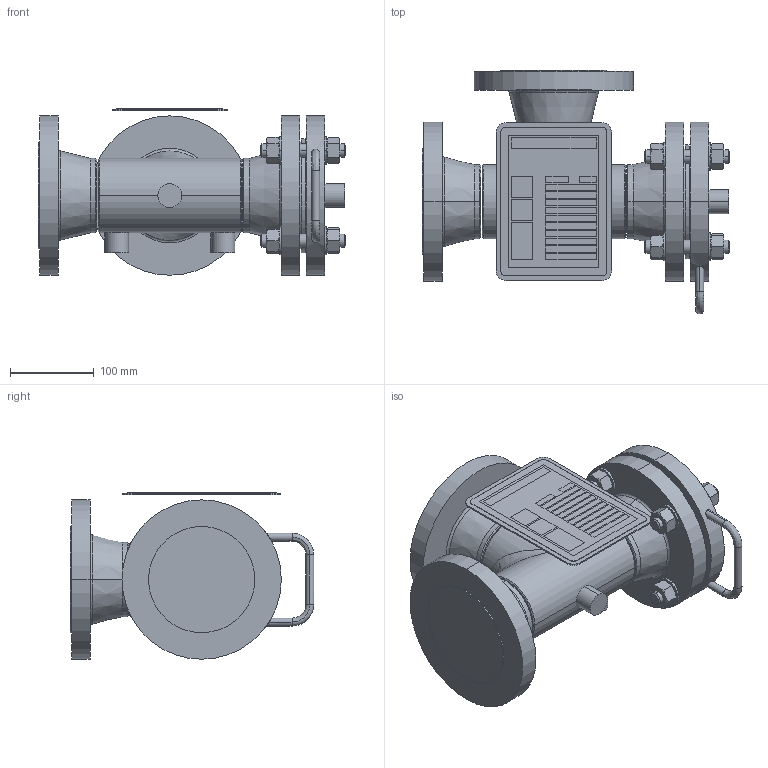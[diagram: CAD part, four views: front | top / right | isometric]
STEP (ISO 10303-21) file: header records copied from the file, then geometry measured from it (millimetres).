
FILE_DESCRIPTION (( 'STEP AP203' ), '1' );
FILE_NAME ('003003-00190.step', '2025-12-09T14:47:14', ( '' ), ( '' ), 'SwSTEP 2.0', 'SolidWorks 2023', '' );
FILE_SCHEMA (( 'CONFIG_CONTROL_DESIGN' ));
Length unit declared in the file: inch
Products named in the file (1): 003003-00190
Bounding box: 367.35 x 291.21 x 199.04 mm (x, y, z)
Volume: 5334832 mm3; surface area: 539443 mm2
Topology: 10 solids, 10 shells, 390 faces, 851 edges, 544 vertices
Faces by surface type: plane 147, cone 130, cylinder 99, bspline 8, torus 6
Entity records: 12358 total; most frequent: CARTESIAN_POINT 3876, DIRECTION 1755, ORIENTED_EDGE 1694, EDGE_CURVE 847, AXIS2_PLACEMENT_3D 739, VERTEX_POINT 544, EDGE_LOOP 459, ADVANCED_FACE 390
